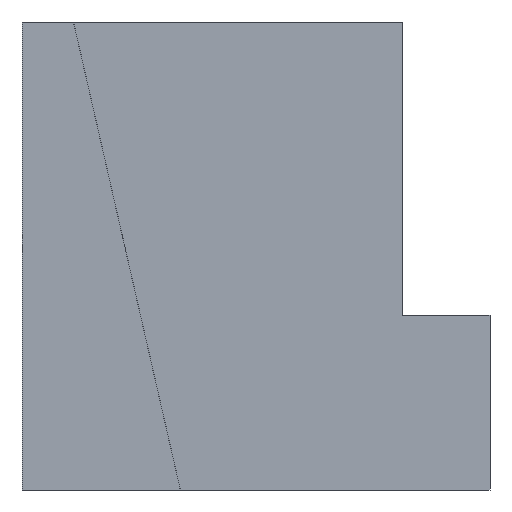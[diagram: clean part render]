
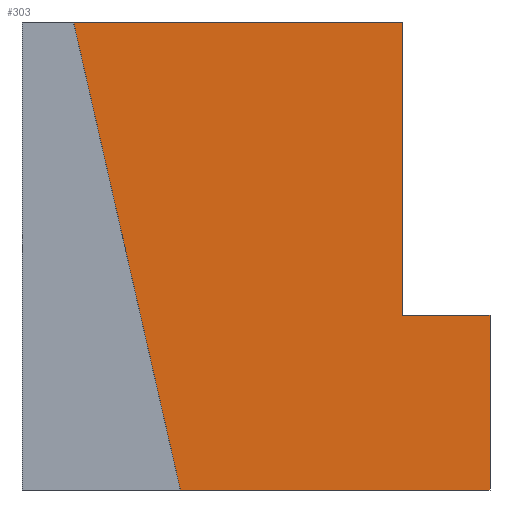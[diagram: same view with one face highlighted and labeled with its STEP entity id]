
A CAD part, left-side view. The second image highlights one B-rep face of the part: STEP entity #303.
In plain terms, the highlighted planar face has unit normal (-1, 0, 0).
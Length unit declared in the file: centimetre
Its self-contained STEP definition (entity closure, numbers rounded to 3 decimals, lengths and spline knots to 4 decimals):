
#5 = DIRECTION ( 'NONE',  ( 0., 0., 1. ) ) ;
#20 = LINE ( 'NONE', #134, #266 ) ;
#26 = ORIENTED_EDGE ( 'NONE', *, *, #45, .F. ) ;
#33 = LINE ( 'NONE', #225, #101 ) ;
#36 = FACE_OUTER_BOUND ( 'NONE', #156, .T. ) ;
#41 = DIRECTION ( 'NONE',  ( 0., 0., -1. ) ) ;
#42 = EDGE_CURVE ( 'NONE', #97, #209, #20, .T. ) ;
#45 = EDGE_CURVE ( 'NONE', #334, #241, #339, .T. ) ;
#46 = CARTESIAN_POINT ( 'NONE',  ( 0., 0., 1000. ) ) ;
#56 = PLANE ( 'NONE',  #169 ) ;
#63 = DIRECTION ( 'NONE',  ( 0., 0.223, 0.975 ) ) ;
#70 = ORIENTED_EDGE ( 'NONE', *, *, #261, .T. ) ;
#83 = CARTESIAN_POINT ( 'NONE',  ( 0., 185.9818, 373.7142 ) ) ;
#88 = CARTESIAN_POINT ( 'NONE',  ( 0., 185.9818, 373.7142 ) ) ;
#90 = DIRECTION ( 'NONE',  ( 0., 0., -1. ) ) ;
#92 = VECTOR ( 'NONE', #204, 100. ) ;
#97 = VERTEX_POINT ( 'NONE', #206 ) ;
#101 = VECTOR ( 'NONE', #63, 100. ) ;
#129 = VERTEX_POINT ( 'NONE', #147 ) ;
#132 = ORIENTED_EDGE ( 'NONE', *, *, #184, .F. ) ;
#134 = CARTESIAN_POINT ( 'NONE',  ( 0., 1000., 0. ) ) ;
#142 = ORIENTED_EDGE ( 'NONE', *, *, #220, .F. ) ;
#147 = CARTESIAN_POINT ( 'NONE',  ( 0., 185.9818, 373.7142 ) ) ;
#150 = LINE ( 'NONE', #46, #267 ) ;
#154 = ORIENTED_EDGE ( 'NONE', *, *, #42, .T. ) ;
#156 = EDGE_LOOP ( 'NONE', ( #132, #70, #26, #142, #154, #219 ) ) ;
#165 = VERTEX_POINT ( 'NONE', #172 ) ;
#169 = AXIS2_PLACEMENT_3D ( 'NONE', #174, #198, #90 ) ;
#171 = CARTESIAN_POINT ( 'NONE',  ( 0., 0., 0. ) ) ;
#172 = CARTESIAN_POINT ( 'NONE',  ( 0., 0., 373.7142 ) ) ;
#174 = CARTESIAN_POINT ( 'NONE',  ( 0., 1000., 1000. ) ) ;
#184 = EDGE_CURVE ( 'NONE', #129, #165, #351, .T. ) ;
#191 = LINE ( 'NONE', #83, #224 ) ;
#197 = CARTESIAN_POINT ( 'NONE',  ( 0., 185.9818, 1000. ) ) ;
#198 = DIRECTION ( 'NONE',  ( 1., 0., 0. ) ) ;
#204 = DIRECTION ( 'NONE',  ( 0., -1., 0. ) ) ;
#206 = CARTESIAN_POINT ( 'NONE',  ( 0., 661.5421, 0. ) ) ;
#207 = VECTOR ( 'NONE', #280, 100. ) ;
#209 = VERTEX_POINT ( 'NONE', #171 ) ;
#219 = ORIENTED_EDGE ( 'NONE', *, *, #329, .F. ) ;
#220 = EDGE_CURVE ( 'NONE', #97, #334, #33, .T. ) ;
#224 = VECTOR ( 'NONE', #5, 100. ) ;
#225 = CARTESIAN_POINT ( 'NONE',  ( 0., 890.0109, 1000. ) ) ;
#241 = VERTEX_POINT ( 'NONE', #197 ) ;
#248 = DIRECTION ( 'NONE',  ( 0., -1., 0. ) ) ;
#261 = EDGE_CURVE ( 'NONE', #129, #241, #191, .T. ) ;
#266 = VECTOR ( 'NONE', #248, 100. ) ;
#267 = VECTOR ( 'NONE', #41, 100. ) ;
#280 = DIRECTION ( 'NONE',  ( 0., -1., 0. ) ) ;
#303 = ADVANCED_FACE ( 'NONE', ( #36 ), #56, .F. ) ;
#323 = CARTESIAN_POINT ( 'NONE',  ( 0., 890.0109, 1000. ) ) ;
#329 = EDGE_CURVE ( 'NONE', #165, #209, #150, .T. ) ;
#334 = VERTEX_POINT ( 'NONE', #323 ) ;
#339 = LINE ( 'NONE', #366, #207 ) ;
#351 = LINE ( 'NONE', #88, #92 ) ;
#366 = CARTESIAN_POINT ( 'NONE',  ( 0., 1000., 1000. ) ) ;
